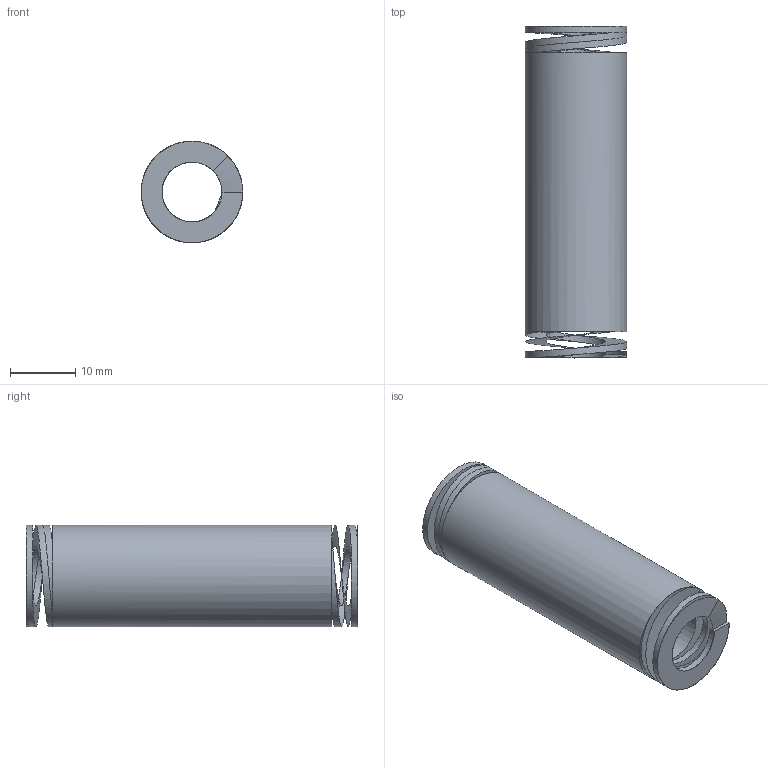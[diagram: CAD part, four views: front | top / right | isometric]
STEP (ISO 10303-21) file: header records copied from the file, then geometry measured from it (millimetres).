
FILE_DESCRIPTION(/* description */ ('Max 37,5% | 19.1 | 505'),/* implementation_level */ '2;1');
FILE_NAME(/* name */ '2S16050.step',/* time_stamp */ '2026-10-07T11:26:38+02:00',/* author */ ('2S'),/* organization */ ('3,2x2,0 prostokatny'),/* preprocessor_version */ 'ST-DEVELOPER v20.1',/* originating_system */ 'Autodesk Inventor 2026',/* authorisation */ '26.4');
FILE_SCHEMA (('AUTOMOTIVE_DESIGN { 1 0 10303 214 3 1 1 }'));
Length unit declared in the file: millimetre
Products named in the file (1): 2S16050
Bounding box: 15.61 x 51 x 15.61 mm (x, y, z)
Volume: 5979 mm3; surface area: 4738.4 mm2
Topology: 1 solids, 2 shells, 23 faces, 64 edges, 40 vertices
Faces by surface type: bspline 14, plane 7, cylinder 2
Full cylindrical faces by diameter (mm): 9.199 x1, 15.601 x1
Entity records: 2595 total; most frequent: CARTESIAN_POINT 2119, ORIENTED_EDGE 120, EDGE_CURVE 60, B_SPLINE_CURVE_WITH_KNOTS 48, VERTEX_POINT 38, DIRECTION 34, EDGE_LOOP 26, FACE_OUTER_BOUND 22
